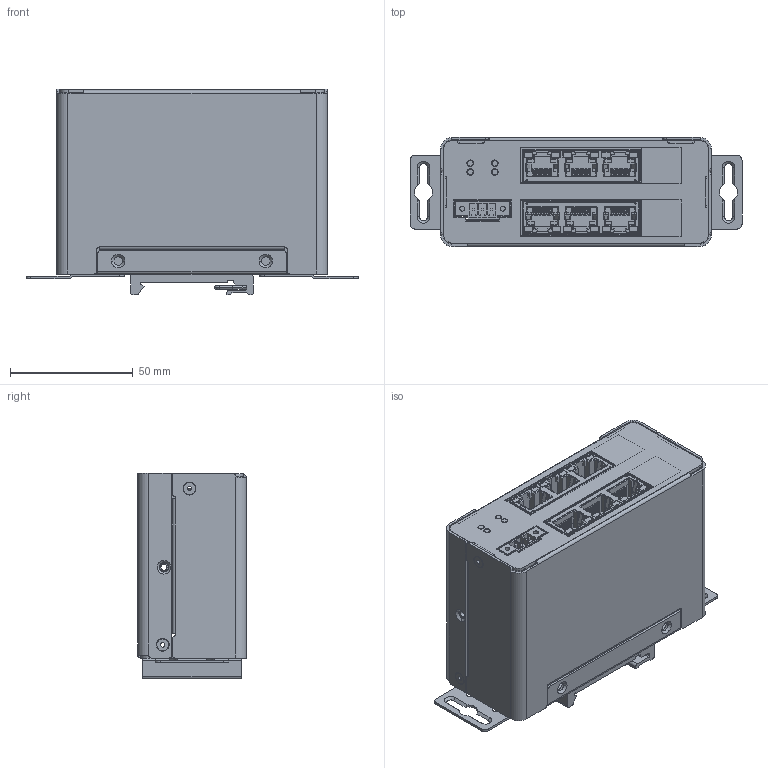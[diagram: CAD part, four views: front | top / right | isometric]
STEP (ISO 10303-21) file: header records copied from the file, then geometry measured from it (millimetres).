
FILE_DESCRIPTION((''),'2;1');
FILE_NAME('ZSW-8006_SW0001','2026-03-13T14:11:29',('hepeizong'),(''),'CREO PARAMETRIC BY PTC INC, 2021404','CREO PARAMETRIC BY PTC INC, 2021404','');
FILE_SCHEMA(('CONFIG_CONTROL_DESIGN','SHAPE_APPEARANCE_LAYERS_GROUPS'));
Products named in the file (1): ZSW-8006_SW0001
Bounding box: 135 x 44.2 x 83.7 mm (x, y, z)
Volume: 53965 mm3; surface area: 100551.6 mm2
Topology: 9 solids, 9 shells, 5008 faces, 16142 edges, 10686 vertices
Faces by surface type: plane 3695, cylinder 1045, torus 162, cone 54, bspline 48, sphere 4
Entity records: 195581 total; most frequent: CARTESIAN_POINT 48180, ORIENTED_EDGE 32252, DIRECTION 27450, EDGE_CURVE 16126, VECTOR 11692, LINE 11692, VERTEX_POINT 10692, AXIS2_PLACEMENT_3D 7879
